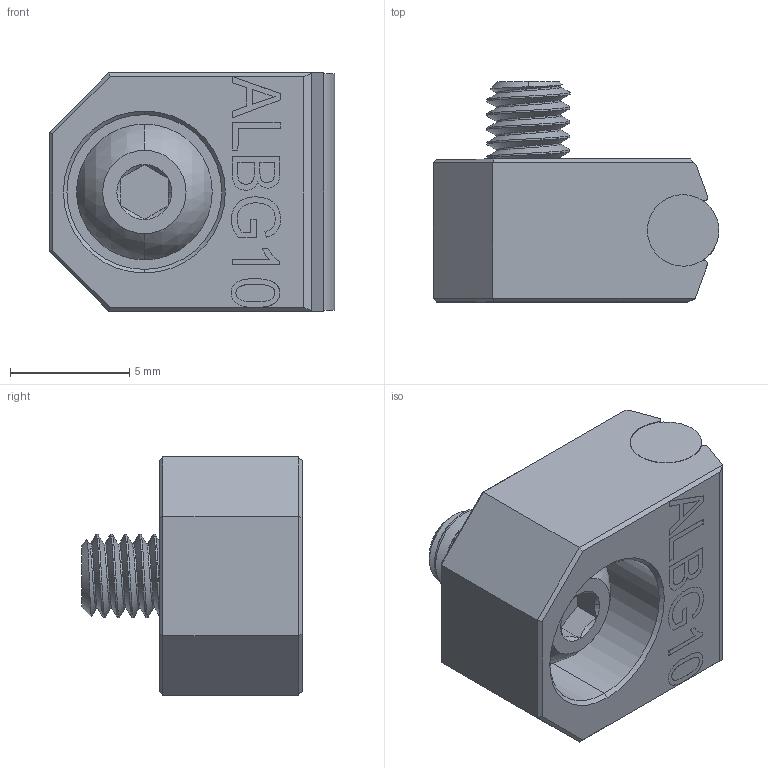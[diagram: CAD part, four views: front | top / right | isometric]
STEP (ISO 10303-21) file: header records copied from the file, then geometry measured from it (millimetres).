
FILE_DESCRIPTION (( 'STEP AP203' ), '1' );
FILE_NAME ('ALBG10_Bar_Guide.STEP', '2020-12-19T20:47:38', ( '' ), ( '' ), 'SwSTEP 2.0', 'SolidWorks 2020', '' );
FILE_SCHEMA (( 'CONFIG_CONTROL_DESIGN' ));
Length unit declared in the file: inch
Products named in the file (3): ALBG10_2020-03-31; M3_5x6_ BUTTON-HEAD SOCKET CAP SCREW_94500A277; ALBG10_Bar_Guide
Assembly tree (2 placements, depth 2):
  ALBG10_Bar_Guide
    ALBG10_2020-03-31
    M3_5x6_ BUTTON-HEAD SOCKET CAP SCREW_94500A277
Bounding box: 12 x 9.25 x 10 mm (x, y, z)
Volume: 581.2 mm3; surface area: 696.4 mm2
Topology: 2 solids, 2 shells, 144 faces, 359 edges, 230 vertices
Faces by surface type: plane 75, cylinder 32, bspline 19, cone 16, sphere 2
Entity records: 6371 total; most frequent: CARTESIAN_POINT 2866, ORIENTED_EDGE 718, DIRECTION 579, EDGE_CURVE 359, VERTEX_POINT 230, VECTOR 217, LINE 217, AXIS2_PLACEMENT_3D 181
